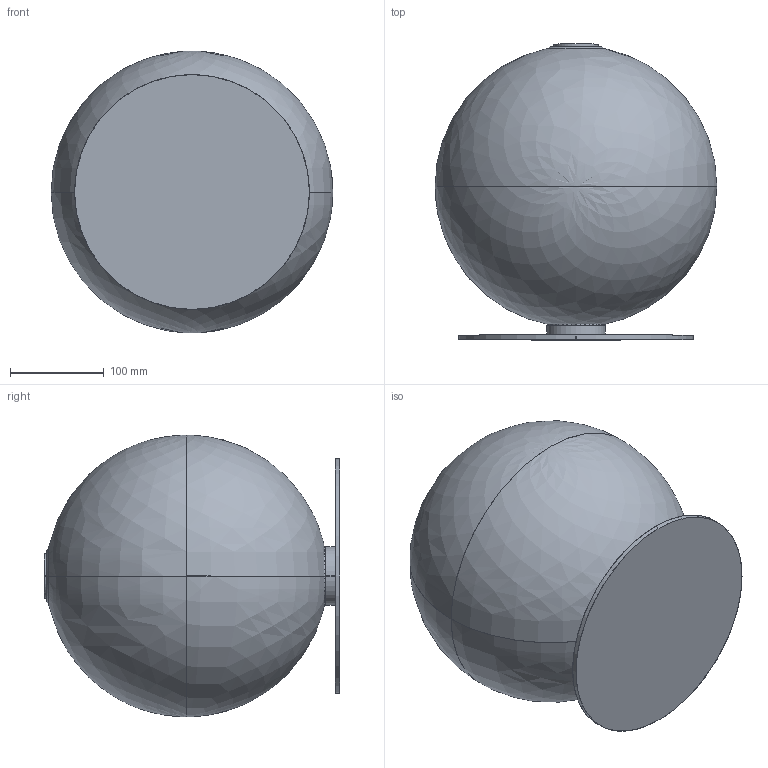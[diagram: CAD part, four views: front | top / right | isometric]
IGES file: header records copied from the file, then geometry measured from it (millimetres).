
Start section: SolidWorks IGES file using analytic representation for surfaces
Global section: file name: C:\Users\Agustin\Desktop\COMPARTIDA\Nueva Coleccion Septiembre 2026\TOULON_1365\TOULON_S1365\3D\TOULON_S1365.IGS; native system: SolidWorks 2023; preprocessor: SolidWorks 2023; author: Agustin; date: 260703.121049; units: millimetre
Bounding box: 300 x 315 x 300 mm (x, y, z)
Surface area: 465288.8 mm2 (no closed solid volume)
Topology: 0 solids, 0 shells, 98 faces, 1178 edges, 1176 vertices
Faces by surface type: revolution 51, bspline 47
